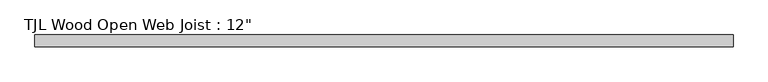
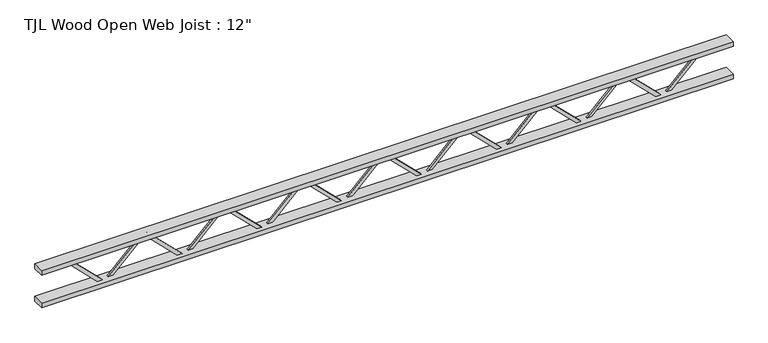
"""IFC4 building model written with IfcOpenShell, lengths in millimetres: beam geometry."""

from ifc_helpers import new_model, si_unit, frame, origin, place, context, project, spatial, polyline, outline, extrude, source, transform, mapped, element, save


def beam_ccf52d65(model_context):
    return source(origin(), model_context, "Body", "SweptSolid", [
        extrude(outline(polyline([(119.0625, 1831.18125), (144.4625, 1831.18125), (144.4625, 1813.2707463), (-119.0625, 1546.1738713), (-119.0625, 1500.584375), (-144.4625, 1500.584375), (-144.4625, 1556.5948787), (119.0625, 1823.6917537), (119.0625, 1831.18125)])), frame((0.0, 0.0, 0.0), z_axis=(0.0, 1.0, 0.0), x_axis=(0.0, 0.0, 1.0)), (0.0, 0.0, 1.0), 12.7),
        extrude(outline(polyline([(144.4625, 1220.7875), (119.0625, 1220.7875), (119.0625, 1228.2769963), (-144.4625, 1495.3738713), (-144.4625, 1551.384375), (-119.0625, 1551.384375), (-119.0625, 1505.7948787), (144.4625, 1238.6980037), (144.4625, 1220.7875)])), frame((0.0, -12.7, 0.0), z_axis=(0.0, 1.0, 0.0), x_axis=(0.0, 0.0, 1.0)), (0.0, 0.0, 1.0), 12.7),
        extrude(outline(polyline([(119.0625, 1220.7875), (144.4625, 1220.7875), (144.4625, 1202.8769963), (-119.0625, 935.7801213), (-119.0625, 890.190625), (-144.4625, 890.190625), (-144.4625, 946.2011287), (119.0625, 1213.2980037), (119.0625, 1220.7875)])), frame((0.0, 0.0, 0.0), z_axis=(0.0, 1.0, 0.0), x_axis=(0.0, 0.0, 1.0)), (0.0, 0.0, 1.0), 12.7),
        extrude(outline(polyline([(144.4625, 610.39375), (119.0625, 610.39375), (119.0625, 617.8832463), (-144.4625, 884.9801213), (-144.4625, 940.990625), (-119.0625, 940.990625), (-119.0625, 895.4011287), (144.4625, 628.3042537), (144.4625, 610.39375)])), frame((0.0, -12.7, 0.0), z_axis=(0.0, 1.0, 0.0), x_axis=(0.0, 0.0, 1.0)), (0.0, 0.0, 1.0), 12.7),
        extrude(outline(polyline([(119.0625, 610.39375), (144.4625, 610.39375), (144.4625, 592.4832463), (-119.0625, 325.3863713), (-119.0625, 279.796875), (-144.4625, 279.796875), (-144.4625, 335.8073787), (119.0625, 602.9042537), (119.0625, 610.39375)])), frame((0.0, 0.0, 0.0), z_axis=(0.0, 1.0, 0.0), x_axis=(0.0, 0.0, 1.0)), (0.0, 0.0, 1.0), 12.7),
        extrude(outline(polyline([(144.4625, 0.0), (119.0625, 0.0), (119.0625, 7.4894963), (-144.4625, 274.5863713), (-144.4625, 330.596875), (-119.0625, 330.596875), (-119.0625, 285.0073787), (144.4625, 17.9105037), (144.4625, 0.0)])), frame((0.0, -12.7, 0.0), z_axis=(0.0, 1.0, 0.0), x_axis=(0.0, 0.0, 1.0)), (0.0, 0.0, 1.0), 12.7),
        extrude(outline(polyline([(119.0625, 0.0), (144.4625, 0.0), (144.4625, -17.9105037), (-119.0625, -285.0073787), (-119.0625, -330.596875), (-144.4625, -330.596875), (-144.4625, -274.5863713), (119.0625, -7.4894963), (119.0625, 0.0)])), frame((0.0, 0.0, 0.0), z_axis=(0.0, 1.0, 0.0), x_axis=(0.0, 0.0, 1.0)), (0.0, 0.0, 1.0), 12.7),
        extrude(outline(polyline([(144.4625, -610.39375), (119.0625, -610.39375), (119.0625, -602.9042537), (-144.4625, -335.8073787), (-144.4625, -279.796875), (-119.0625, -279.796875), (-119.0625, -325.3863713), (144.4625, -592.4832463), (144.4625, -610.39375)])), frame((0.0, -12.7, 0.0), z_axis=(0.0, 1.0, 0.0), x_axis=(0.0, 0.0, 1.0)), (0.0, 0.0, 1.0), 12.7),
        extrude(outline(polyline([(119.0625, -610.39375), (144.4625, -610.39375), (144.4625, -628.3042537), (-119.0625, -895.4011287), (-119.0625, -940.990625), (-144.4625, -940.990625), (-144.4625, -884.9801213), (119.0625, -617.8832463), (119.0625, -610.39375)])), frame((0.0, 0.0, 0.0), z_axis=(0.0, 1.0, 0.0), x_axis=(0.0, 0.0, 1.0)), (0.0, 0.0, 1.0), 12.7),
        extrude(outline(polyline([(144.4625, -1220.7875), (119.0625, -1220.7875), (119.0625, -1213.2980037), (-144.4625, -946.2011287), (-144.4625, -890.190625), (-119.0625, -890.190625), (-119.0625, -935.7801213), (144.4625, -1202.8769963), (144.4625, -1220.7875)])), frame((0.0, -12.7, 0.0), z_axis=(0.0, 1.0, 0.0), x_axis=(0.0, 0.0, 1.0)), (0.0, 0.0, 1.0), 12.7),
        extrude(outline(polyline([(119.0625, -1220.7875), (144.4625, -1220.7875), (144.4625, -1238.6980037), (-119.0625, -1505.7948787), (-119.0625, -1551.384375), (-144.4625, -1551.384375), (-144.4625, -1495.3738713), (119.0625, -1228.2769963), (119.0625, -1220.7875)])), frame((0.0, 0.0, 0.0), z_axis=(0.0, 1.0, 0.0), x_axis=(0.0, 0.0, 1.0)), (0.0, 0.0, 1.0), 12.7),
        extrude(outline(polyline([(144.4625, -1831.18125), (119.0625, -1831.18125), (119.0625, -1823.6917537), (-144.4625, -1556.5948787), (-144.4625, -1500.584375), (-119.0625, -1500.584375), (-119.0625, -1546.1738713), (144.4625, -1813.2707463), (144.4625, -1831.18125)])), frame((0.0, -12.7, 0.0), z_axis=(0.0, 1.0, 0.0), x_axis=(0.0, 0.0, 1.0)), (0.0, 0.0, 1.0), 12.7),
        extrude(outline(polyline([(119.0625, 2441.575), (144.4625, 2441.575), (144.4625, 2423.6644963), (-119.0625, 2156.5676213), (-119.0625, 2110.978125), (-144.4625, 2110.978125), (-144.4625, 2166.9886287), (119.0625, 2434.0855037), (119.0625, 2441.575)])), frame((0.0, 0.0, 0.0), z_axis=(0.0, 1.0, 0.0), x_axis=(0.0, 0.0, 1.0)), (0.0, 0.0, 1.0), 12.7),
        extrude(outline(polyline([(144.4625, 1831.18125), (119.0625, 1831.18125), (119.0625, 1838.6707463), (-144.4625, 2105.7676213), (-144.4625, 2161.778125), (-119.0625, 2161.778125), (-119.0625, 2116.1886287), (144.4625, 1849.0917537), (144.4625, 1831.18125)])), frame((0.0, -12.7, 0.0), z_axis=(0.0, 1.0, 0.0), x_axis=(0.0, 0.0, 1.0)), (0.0, 0.0, 1.0), 12.7),
        extrude(outline(polyline([(119.0625, -1831.18125), (144.4625, -1831.18125), (144.4625, -1849.0917537), (-119.0625, -2116.1886287), (-119.0625, -2161.778125), (-144.4625, -2161.778125), (-144.4625, -2105.7676213), (119.0625, -1838.6707463), (119.0625, -1831.18125)])), frame((0.0, 0.0, 0.0), z_axis=(0.0, 1.0, 0.0), x_axis=(0.0, 0.0, 1.0)), (0.0, 0.0, 1.0), 12.7),
        extrude(outline(polyline([(144.4625, -2441.575), (119.0625, -2441.575), (119.0625, -2434.0855037), (-144.4625, -2166.9886287), (-144.4625, -2110.978125), (-119.0625, -2110.978125), (-119.0625, -2156.5676213), (144.4625, -2423.6644963), (144.4625, -2441.575)])), frame((0.0, -12.7, 0.0), z_axis=(0.0, 1.0, 0.0), x_axis=(0.0, 0.0, 1.0)), (0.0, 0.0, 1.0), 12.7),
        extrude(outline(polyline([(2644.775, 44.45), (2644.775, -44.45), (-2644.775, -44.45), (-2644.775, 44.45), (2644.775, 44.45)])), frame((0.0, 0.0, 112.7125), z_axis=(0.0, 0.0, 1.0), x_axis=(1.0, 0.0, 0.0)), (0.0, 0.0, 1.0), 38.1),
        extrude(outline(polyline([(2644.775, 44.45), (2644.775, -44.45), (-2644.775, -44.45), (-2644.775, 44.45), (2644.775, 44.45)])), frame((0.0, 0.0, -150.8125), z_axis=(0.0, 0.0, 1.0), x_axis=(1.0, 0.0, 0.0)), (0.0, 0.0, 1.0), 38.1),
    ])


if __name__ == "__main__":
    model = new_model("IFC4")
    model_context = context("Model", 3, world=origin())
    ifc_project = project(units=[si_unit("LENGTHUNIT", "METRE", prefix="MILLI")], contexts=[model_context])
    site = spatial("IfcSite", under=ifc_project)
    building = spatial("IfcBuilding", under=site)
    placement = place(None, origin())
    beam_shape = beam_ccf52d65(model_context)
    element("IfcBeam", 1, ObjectType="TJL Wood Open Web Joist : 12\"", at=placement, inside=building, context=model_context, shape_type="MappedRepresentation", body=[
        mapped(beam_shape, transform((0.0, 0.0, 0.0), x_axis=(1.0, 0.0, 0.0), y_axis=(0.0, 1.0, 0.0), z_axis=(0.0, 0.0, 1.0))),
    ])
    save(model, "model.ifc")
